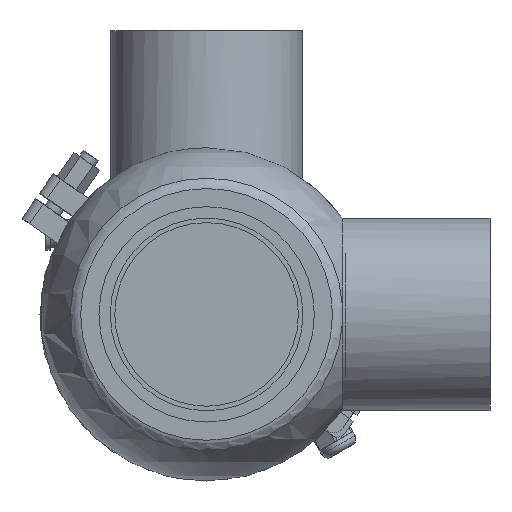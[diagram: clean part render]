
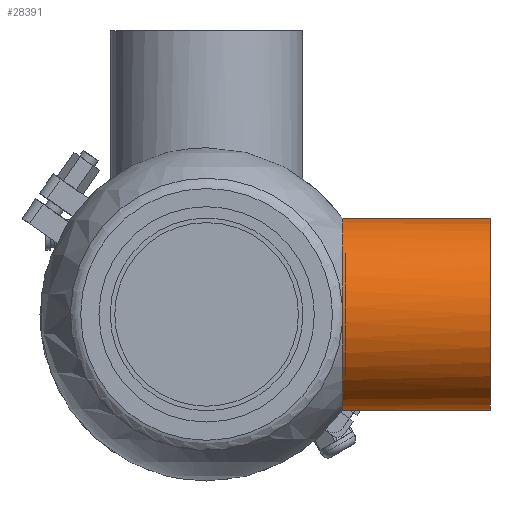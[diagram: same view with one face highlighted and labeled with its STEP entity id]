
A CAD part, front view. The second image highlights one B-rep face of the part: STEP entity #28391.
In plain terms, the highlighted cylindrical face has radius 42.5 mm (diameter 85 mm), a full revolution.
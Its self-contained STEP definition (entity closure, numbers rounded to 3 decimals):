
#757 = DIRECTION ( 'NONE',  ( 0., 0., 1. ) ) ;
#851 = ORIENTED_EDGE ( 'NONE', *, *, #8706, .T. ) ;
#1108 = CARTESIAN_POINT ( 'NONE',  ( 60., 42.5, 0.666 ) ) ;
#1202 = ORIENTED_EDGE ( 'NONE', *, *, #50891, .T. ) ;
#1861 = CARTESIAN_POINT ( 'NONE',  ( 59.967, -42.455, 2.244 ) ) ;
#2170 = CARTESIAN_POINT ( 'NONE',  ( 59.965, -42.489, -1.116 ) ) ;
#2172 = VERTEX_POINT ( 'NONE', #28903 ) ;
#4237 = CYLINDRICAL_SURFACE ( 'NONE', #43923, 42.5 ) ;
#4837 = DIRECTION ( 'NONE',  ( -1., 0., 0. ) ) ;
#6521 = CARTESIAN_POINT ( 'NONE',  ( 59.966, -42.445, -2.238 ) ) ;
#8706 = EDGE_CURVE ( 'NONE', #2172, #19851, #33891, .T. ) ;
#12796 = CIRCLE ( 'NONE', #60312, 42.5 ) ;
#12898 = CARTESIAN_POINT ( 'NONE',  ( 59.967, 0., 0. ) ) ;
#15515 = EDGE_CURVE ( 'NONE', #19851, #44144, #12796, .T. ) ;
#15763 = CARTESIAN_POINT ( 'NONE',  ( 59.965, -42.5, -0.553 ) ) ;
#16447 = EDGE_CURVE ( 'NONE', #45342, #45342, #43579, .T. ) ;
#19851 = VERTEX_POINT ( 'NONE', #58031 ) ;
#23755 = DIRECTION ( 'NONE',  ( 0., 0., 1. ) ) ;
#26430 = CARTESIAN_POINT ( 'NONE',  ( 125., 0., 42.5 ) ) ;
#27002 = DIRECTION ( 'NONE',  ( -1., 0., 0. ) ) ;
#28372 = FACE_OUTER_BOUND ( 'NONE', #55853, .T. ) ;
#28391 = ADVANCED_FACE ( 'NONE', ( #37073, #28372 ), #4237, .T. ) ;
#28903 = CARTESIAN_POINT ( 'NONE',  ( 59.967, 42.453, -2. ) ) ;
#29897 = CARTESIAN_POINT ( 'NONE',  ( 59.989, 42.484, 1.336 ) ) ;
#30809 = EDGE_LOOP ( 'NONE', ( #33385, #41442, #1202, #851 ) ) ;
#33385 = ORIENTED_EDGE ( 'NONE', *, *, #15515, .T. ) ;
#33891 = B_SPLINE_CURVE_WITH_KNOTS ( 'NONE', 3,
 ( #53534, #48226, #39526, #1108, #29897, #52903 ),
 .UNSPECIFIED., .F., .F.,
 ( 4, 2, 4 ),
 ( 0.024, 0.026, 0.028 ),
 .UNSPECIFIED. ) ;
#35307 = CARTESIAN_POINT ( 'NONE',  ( 59.967, -42.367, -3.354 ) ) ;
#35739 = CARTESIAN_POINT ( 'NONE',  ( 125., 0., 0. ) ) ;
#37073 = FACE_OUTER_BOUND ( 'NONE', #30809, .T. ) ;
#37355 = DIRECTION ( 'NONE',  ( 1., 0., 0. ) ) ;
#39526 = CARTESIAN_POINT ( 'NONE',  ( 60., 42.5, -0.672 ) ) ;
#40392 = CARTESIAN_POINT ( 'NONE',  ( 59.967, -42.367, -3.354 ) ) ;
#40597 = AXIS2_PLACEMENT_3D ( 'NONE', #35739, #27002, #54661 ) ;
#40998 = B_SPLINE_CURVE_WITH_KNOTS ( 'NONE', 3,
 ( #45499, #1861, #44587, #15763, #2170, #6521, #53660, #35307 ),
 .UNSPECIFIED., .F., .F.,
 ( 4, 2, 2, 4 ),
 ( 0.025, 0.028, 0.03, 0.032 ),
 .UNSPECIFIED. ) ;
#41442 = ORIENTED_EDGE ( 'NONE', *, *, #52481, .T. ) ;
#41946 = DIRECTION ( 'NONE',  ( 1., 0., 0. ) ) ;
#43579 = CIRCLE ( 'NONE', #40597, 42.5 ) ;
#43923 = AXIS2_PLACEMENT_3D ( 'NONE', #47295, #4837, #23755 ) ;
#44144 = VERTEX_POINT ( 'NONE', #58898 ) ;
#44587 = CARTESIAN_POINT ( 'NONE',  ( 59.965, -42.5, 1.129 ) ) ;
#45342 = VERTEX_POINT ( 'NONE', #26430 ) ;
#45499 = CARTESIAN_POINT ( 'NONE',  ( 59.967, -42.367, 3.354 ) ) ;
#47295 = CARTESIAN_POINT ( 'NONE',  ( 0., 0., 0. ) ) ;
#48226 = CARTESIAN_POINT ( 'NONE',  ( 59.989, 42.484, -1.338 ) ) ;
#50342 = VERTEX_POINT ( 'NONE', #40392 ) ;
#50891 = EDGE_CURVE ( 'NONE', #50342, #2172, #54618, .T. ) ;
#52240 = CARTESIAN_POINT ( 'NONE',  ( 59.967, 0., 0. ) ) ;
#52481 = EDGE_CURVE ( 'NONE', #44144, #50342, #40998, .T. ) ;
#52903 = CARTESIAN_POINT ( 'NONE',  ( 59.967, 42.453, 2. ) ) ;
#52955 = ORIENTED_EDGE ( 'NONE', *, *, #16447, .T. ) ;
#53534 = CARTESIAN_POINT ( 'NONE',  ( 59.967, 42.453, -2. ) ) ;
#53660 = CARTESIAN_POINT ( 'NONE',  ( 59.967, -42.412, -2.797 ) ) ;
#54618 = CIRCLE ( 'NONE', #56582, 42.5 ) ;
#54661 = DIRECTION ( 'NONE',  ( 0., 0., 1. ) ) ;
#55853 = EDGE_LOOP ( 'NONE', ( #52955 ) ) ;
#55985 = DIRECTION ( 'NONE',  ( 0., 0., 1. ) ) ;
#56582 = AXIS2_PLACEMENT_3D ( 'NONE', #12898, #37355, #55985 ) ;
#58031 = CARTESIAN_POINT ( 'NONE',  ( 59.967, 42.453, 2. ) ) ;
#58898 = CARTESIAN_POINT ( 'NONE',  ( 59.967, -42.367, 3.354 ) ) ;
#60312 = AXIS2_PLACEMENT_3D ( 'NONE', #52240, #41946, #757 ) ;
